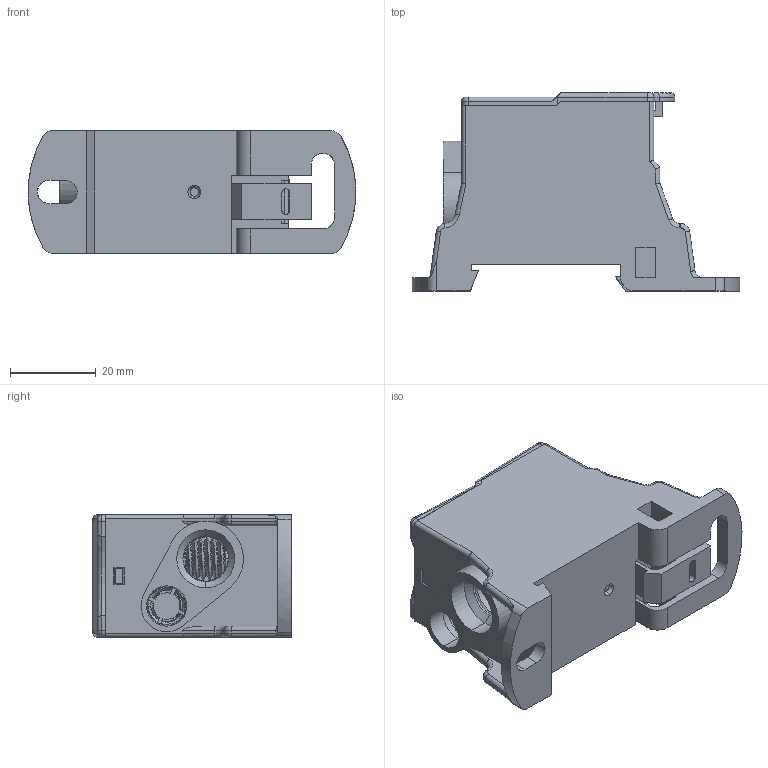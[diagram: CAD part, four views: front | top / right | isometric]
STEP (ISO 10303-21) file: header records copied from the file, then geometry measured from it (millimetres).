
FILE_DESCRIPTION (( 'STEP AP214' ), '1' );
FILE_NAME ('125A..STEP', '2021-01-17T05:45:40', ( '微软用户' ), ( '微软中国' ), 'SwSTEP 2.0', 'SolidWorks 2008', '' );
FILE_SCHEMA (( 'AUTOMOTIVE_DESIGN' ));
Length unit declared in the file: millimetre
Products named in the file (1): 125A.
Bounding box: 76.37 x 46.2 x 28.6 mm (x, y, z)
Surface area: 33078.2 mm2 (no closed solid volume)
Topology: 0 solids, 12 shells, 1501 faces, 4221 edges, 2759 vertices
Faces by surface type: bspline 584, cylinder 543, plane 265, torus 51, cone 50, sphere 8
Entity records: 154997 total; most frequent: CARTESIAN_POINT 113143, ORIENTED_EDGE 8351, EDGE_CURVE 4177, DIRECTION 3802, VERTEX_POINT 2747, B_SPLINE_CURVE_WITH_KNOTS 2480, EDGE_LOOP 1609, ADVANCED_FACE 1497
